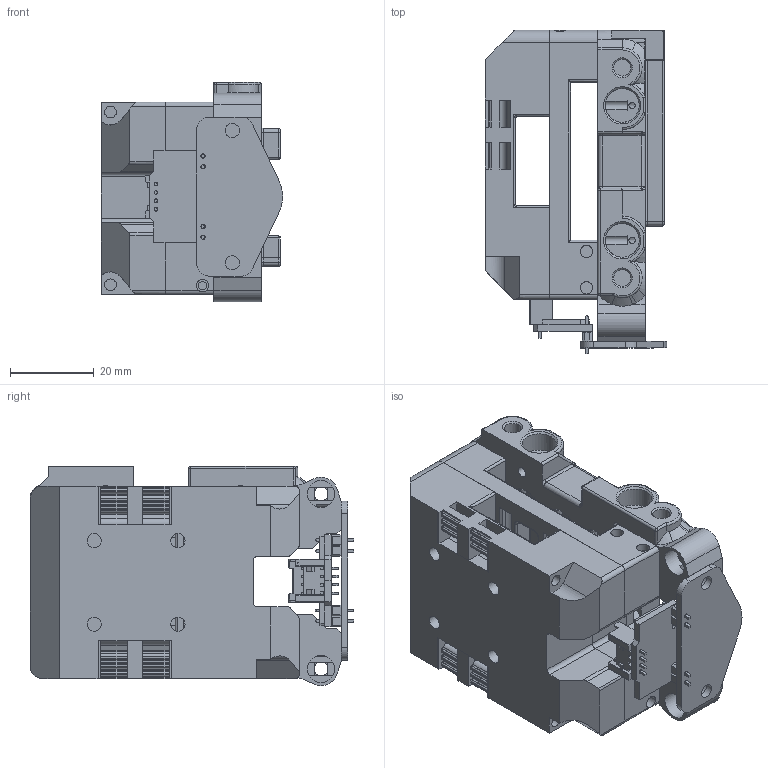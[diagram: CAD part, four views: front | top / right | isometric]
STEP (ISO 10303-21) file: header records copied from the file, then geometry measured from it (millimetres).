
FILE_DESCRIPTION(/* description */ ('','CAx-IF Rec.Pracs.---Representation and Presentation of Product Manufacturing Information (PMI)---4.0---2014-10-13'),/* implementation_level */ '2;1');
FILE_NAME(/* name */ 'Lineux Voron2.4-Carriage By art v1.step',/* time_stamp */ '2024-12-16T15:23:01+07:00',/* author */ (''),/* organization */ (''),/* preprocessor_version */ 'ST-DEVELOPER v20',/* originating_system */ 'Autodesk Translation Framework v13.20.0.188',/* authorisation */ '');
FILE_SCHEMA (('AP242_MANAGED_MODEL_BASED_3D_ENGINEERING_MIM_LF { 1 0 10303 442 1 1 4 }'));
Length unit declared in the file: millimetre
Products named in the file (2): Lineux Voron2.4-Carriage By art; Beacon_RevD_Assm_Normal v1
Assembly tree (1 placements, depth 2):
  Lineux Voron2.4-Carriage By art
    Beacon_RevD_Assm_Normal v1
Bounding box: 43.3 x 77.33 x 52.4 mm (x, y, z)
Volume: 80253.1 mm3; surface area: 39623.2 mm2
Topology: 9 solids, 9 shells, 1200 faces, 3240 edges, 2088 vertices
Faces by surface type: plane 787, cylinder 323, bspline 30, cone 28, torus 26, sphere 6
Full cylindrical faces by diameter (mm): 0.406 x16, 0.9 x4, 1.02 x9, 1.5 x5, 2 x10, 2.5 x2, 2.8 x2, 3 x6, 3.1 x2, 3.4 x12, 4 x2, 4.7 x7, 5.5 x3, 6.1 x2, 6.5 x9, 8.1 x2, 10 x7
Entity records: 39968 total; most frequent: CARTESIAN_POINT 8720, ORIENTED_EDGE 6464, DIRECTION 6356, EDGE_CURVE 3232, LINE 2262, VECTOR 2262, VERTEX_POINT 2088, AXIS2_PLACEMENT_3D 2047
